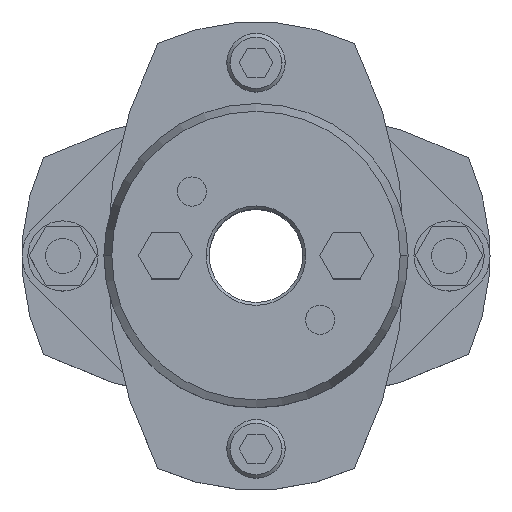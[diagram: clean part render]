
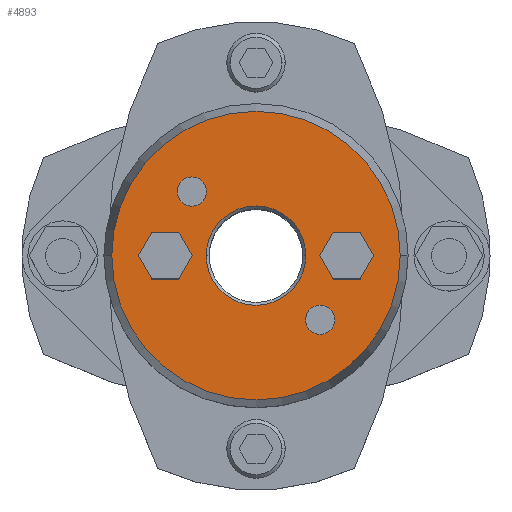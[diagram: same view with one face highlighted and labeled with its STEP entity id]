
A CAD part, top view. The second image highlights one B-rep face of the part: STEP entity #4893.
In plain terms, the highlighted planar face has unit normal (0, 0, 1).
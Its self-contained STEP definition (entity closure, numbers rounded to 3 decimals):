
#857=CARTESIAN_POINT('',(-8.5,0.,35.875));
#858=VERTEX_POINT('',#857);
#874=CARTESIAN_POINT('',(8.5,0.,35.875));
#875=VERTEX_POINT('',#874);
#882=CARTESIAN_POINT('',(0.,0.,35.875));
#883=DIRECTION('',(0.0,0.0,1.0));
#884=DIRECTION('',(-1.0,0.0,0.0));
#885=AXIS2_PLACEMENT_3D('',#882,#883,#884);
#886=CIRCLE('',#885,8.5);
#887=EDGE_CURVE('',#875,#858,#886,.T.);
#1045=CARTESIAN_POINT('',(24.66,0.,35.875));
#1046=VERTEX_POINT('',#1045);
#1053=CARTESIAN_POINT('',(-24.66,0.,35.875));
#1054=VERTEX_POINT('',#1053);
#1055=CARTESIAN_POINT('',(0.,0.,35.875));
#1056=DIRECTION('',(0.0,0.0,-1.0));
#1057=DIRECTION('',(1.0,0.0,0.0));
#1058=AXIS2_PLACEMENT_3D('',#1055,#1056,#1057);
#1059=CIRCLE('',#1058,24.66);
#1060=EDGE_CURVE('',#1046,#1054,#1059,.T.);
#1155=CARTESIAN_POINT('',(-13.46,10.96,35.875));
#1156=VERTEX_POINT('',#1155);
#1172=CARTESIAN_POINT('',(-8.46,10.96,35.875));
#1173=VERTEX_POINT('',#1172);
#1180=CARTESIAN_POINT('',(-10.96,10.96,35.875));
#1181=DIRECTION('',(0.0,0.0,-1.0));
#1182=DIRECTION('',(-1.0,0.0,0.0));
#1183=AXIS2_PLACEMENT_3D('',#1180,#1181,#1182);
#1184=CIRCLE('',#1183,2.5);
#1185=EDGE_CURVE('',#1156,#1173,#1184,.T.);
#1197=CARTESIAN_POINT('',(8.46,-10.96,35.875));
#1198=VERTEX_POINT('',#1197);
#1214=CARTESIAN_POINT('',(13.46,-10.96,35.875));
#1215=VERTEX_POINT('',#1214);
#1222=CARTESIAN_POINT('',(10.96,-10.96,35.875));
#1223=DIRECTION('',(0.0,0.0,-1.0));
#1224=DIRECTION('',(-1.0,0.0,0.0));
#1225=AXIS2_PLACEMENT_3D('',#1222,#1223,#1224);
#1226=CIRCLE('',#1225,2.5);
#1227=EDGE_CURVE('',#1198,#1215,#1226,.T.);
#4137=CARTESIAN_POINT('',(10.881,0.,35.875));
#4138=VERTEX_POINT('',#4137);
#4145=CARTESIAN_POINT('',(13.191,-4.,35.875));
#4146=VERTEX_POINT('',#4145);
#4147=CARTESIAN_POINT('',(13.191,-4.,35.875));
#4148=DIRECTION('',(-0.5,0.866,0.0));
#4149=VECTOR('',#4148,4.619);
#4150=LINE('',#4147,#4149);
#4151=EDGE_CURVE('',#4146,#4138,#4150,.T.);
#4175=CARTESIAN_POINT('',(13.191,4.,35.875));
#4176=VERTEX_POINT('',#4175);
#4183=CARTESIAN_POINT('',(10.881,0.,35.875));
#4184=DIRECTION('',(0.5,0.866,0.0));
#4185=VECTOR('',#4184,4.619);
#4186=LINE('',#4183,#4185);
#4187=EDGE_CURVE('',#4138,#4176,#4186,.T.);
#4206=CARTESIAN_POINT('',(17.809,4.,35.875));
#4207=VERTEX_POINT('',#4206);
#4214=CARTESIAN_POINT('',(13.191,4.,35.875));
#4215=DIRECTION('',(1.0,0.0,0.0));
#4216=VECTOR('',#4215,4.619);
#4217=LINE('',#4214,#4216);
#4218=EDGE_CURVE('',#4176,#4207,#4217,.T.);
#4237=CARTESIAN_POINT('',(20.119,0.,35.875));
#4238=VERTEX_POINT('',#4237);
#4245=CARTESIAN_POINT('',(17.809,4.,35.875));
#4246=DIRECTION('',(0.5,-0.866,0.0));
#4247=VECTOR('',#4246,4.619);
#4248=LINE('',#4245,#4247);
#4249=EDGE_CURVE('',#4207,#4238,#4248,.T.);
#4268=CARTESIAN_POINT('',(17.809,-4.,35.875));
#4269=VERTEX_POINT('',#4268);
#4276=CARTESIAN_POINT('',(20.119,0.,35.875));
#4277=DIRECTION('',(-0.5,-0.866,0.0));
#4278=VECTOR('',#4277,4.619);
#4279=LINE('',#4276,#4278);
#4280=EDGE_CURVE('',#4238,#4269,#4279,.T.);
#4298=CARTESIAN_POINT('',(17.809,-4.,35.875));
#4299=DIRECTION('',(-1.0,0.0,0.0));
#4300=VECTOR('',#4299,4.619);
#4301=LINE('',#4298,#4300);
#4302=EDGE_CURVE('',#4269,#4146,#4301,.T.);
#4337=CARTESIAN_POINT('',(-20.119,0.,35.875));
#4338=VERTEX_POINT('',#4337);
#4345=CARTESIAN_POINT('',(-17.809,-4.,35.875));
#4346=VERTEX_POINT('',#4345);
#4347=CARTESIAN_POINT('',(-17.809,-4.,35.875));
#4348=DIRECTION('',(-0.5,0.866,0.0));
#4349=VECTOR('',#4348,4.619);
#4350=LINE('',#4347,#4349);
#4351=EDGE_CURVE('',#4346,#4338,#4350,.T.);
#4375=CARTESIAN_POINT('',(-17.809,4.,35.875));
#4376=VERTEX_POINT('',#4375);
#4383=CARTESIAN_POINT('',(-20.119,0.,35.875));
#4384=DIRECTION('',(0.5,0.866,0.0));
#4385=VECTOR('',#4384,4.619);
#4386=LINE('',#4383,#4385);
#4387=EDGE_CURVE('',#4338,#4376,#4386,.T.);
#4406=CARTESIAN_POINT('',(-13.191,4.,35.875));
#4407=VERTEX_POINT('',#4406);
#4414=CARTESIAN_POINT('',(-17.809,4.,35.875));
#4415=DIRECTION('',(1.0,0.0,0.0));
#4416=VECTOR('',#4415,4.619);
#4417=LINE('',#4414,#4416);
#4418=EDGE_CURVE('',#4376,#4407,#4417,.T.);
#4437=CARTESIAN_POINT('',(-10.881,0.,35.875));
#4438=VERTEX_POINT('',#4437);
#4445=CARTESIAN_POINT('',(-13.191,4.,35.875));
#4446=DIRECTION('',(0.5,-0.866,0.0));
#4447=VECTOR('',#4446,4.619);
#4448=LINE('',#4445,#4447);
#4449=EDGE_CURVE('',#4407,#4438,#4448,.T.);
#4468=CARTESIAN_POINT('',(-13.191,-4.,35.875));
#4469=VERTEX_POINT('',#4468);
#4476=CARTESIAN_POINT('',(-10.881,0.,35.875));
#4477=DIRECTION('',(-0.5,-0.866,0.0));
#4478=VECTOR('',#4477,4.619);
#4479=LINE('',#4476,#4478);
#4480=EDGE_CURVE('',#4438,#4469,#4479,.T.);
#4498=CARTESIAN_POINT('',(-13.191,-4.,35.875));
#4499=DIRECTION('',(-1.0,0.0,0.0));
#4500=VECTOR('',#4499,4.619);
#4501=LINE('',#4498,#4500);
#4502=EDGE_CURVE('',#4469,#4346,#4501,.T.);
#4528=CARTESIAN_POINT('',(10.96,-10.96,35.875));
#4529=DIRECTION('',(0.0,0.0,-1.0));
#4530=DIRECTION('',(-1.0,0.0,0.0));
#4531=AXIS2_PLACEMENT_3D('',#4528,#4529,#4530);
#4532=CIRCLE('',#4531,2.5);
#4533=EDGE_CURVE('',#1215,#1198,#4532,.T.);
#4562=CARTESIAN_POINT('',(-10.96,10.96,35.875));
#4563=DIRECTION('',(0.0,0.0,-1.0));
#4564=DIRECTION('',(-1.0,0.0,0.0));
#4565=AXIS2_PLACEMENT_3D('',#4562,#4563,#4564);
#4566=CIRCLE('',#4565,2.5);
#4567=EDGE_CURVE('',#1173,#1156,#4566,.T.);
#4840=CARTESIAN_POINT('',(0.,0.,35.875));
#4841=DIRECTION('',(0.0,0.0,-1.0));
#4842=DIRECTION('',(1.0,0.0,0.0));
#4843=AXIS2_PLACEMENT_3D('',#4840,#4841,#4842);
#4844=CIRCLE('',#4843,24.66);
#4845=EDGE_CURVE('',#1054,#1046,#4844,.T.);
#4850=CARTESIAN_POINT('',(-2.364,0.,35.875));
#4851=DIRECTION('',(0.0,0.0,1.0));
#4852=DIRECTION('',(-1.0,0.0,0.0));
#4853=AXIS2_PLACEMENT_3D('',#4850,#4851,#4852);
#4854=PLANE('',#4853);
#4855=ORIENTED_EDGE('',*,*,#4845,.F.);
#4856=ORIENTED_EDGE('',*,*,#1060,.F.);
#4857=EDGE_LOOP('',(#4855,#4856));
#4858=FACE_OUTER_BOUND('',#4857,.T.);
#4859=ORIENTED_EDGE('',*,*,#4151,.T.);
#4860=ORIENTED_EDGE('',*,*,#4187,.T.);
#4861=ORIENTED_EDGE('',*,*,#4218,.T.);
#4862=ORIENTED_EDGE('',*,*,#4249,.T.);
#4863=ORIENTED_EDGE('',*,*,#4280,.T.);
#4864=ORIENTED_EDGE('',*,*,#4302,.T.);
#4865=EDGE_LOOP('',(#4859,#4860,#4861,#4862,#4863,#4864));
#4866=FACE_BOUND('',#4865,.T.);
#4867=ORIENTED_EDGE('',*,*,#4351,.T.);
#4868=ORIENTED_EDGE('',*,*,#4387,.T.);
#4869=ORIENTED_EDGE('',*,*,#4418,.T.);
#4870=ORIENTED_EDGE('',*,*,#4449,.T.);
#4871=ORIENTED_EDGE('',*,*,#4480,.T.);
#4872=ORIENTED_EDGE('',*,*,#4502,.T.);
#4873=EDGE_LOOP('',(#4867,#4868,#4869,#4870,#4871,#4872));
#4874=FACE_BOUND('',#4873,.T.);
#4875=ORIENTED_EDGE('',*,*,#1227,.T.);
#4876=ORIENTED_EDGE('',*,*,#4533,.T.);
#4877=EDGE_LOOP('',(#4875,#4876));
#4878=FACE_BOUND('',#4877,.T.);
#4879=ORIENTED_EDGE('',*,*,#1185,.T.);
#4880=ORIENTED_EDGE('',*,*,#4567,.T.);
#4881=EDGE_LOOP('',(#4879,#4880));
#4882=FACE_BOUND('',#4881,.T.);
#4883=ORIENTED_EDGE('',*,*,#887,.F.);
#4884=CARTESIAN_POINT('',(0.,0.,35.875));
#4885=DIRECTION('',(0.0,0.0,1.0));
#4886=DIRECTION('',(-1.0,0.0,0.0));
#4887=AXIS2_PLACEMENT_3D('',#4884,#4885,#4886);
#4888=CIRCLE('',#4887,8.5);
#4889=EDGE_CURVE('',#858,#875,#4888,.T.);
#4890=ORIENTED_EDGE('',*,*,#4889,.F.);
#4891=EDGE_LOOP('',(#4883,#4890));
#4892=FACE_BOUND('',#4891,.T.);
#4893=ADVANCED_FACE('',(#4858,#4866,#4874,#4878,#4882,#4892),#4854,.T.);
